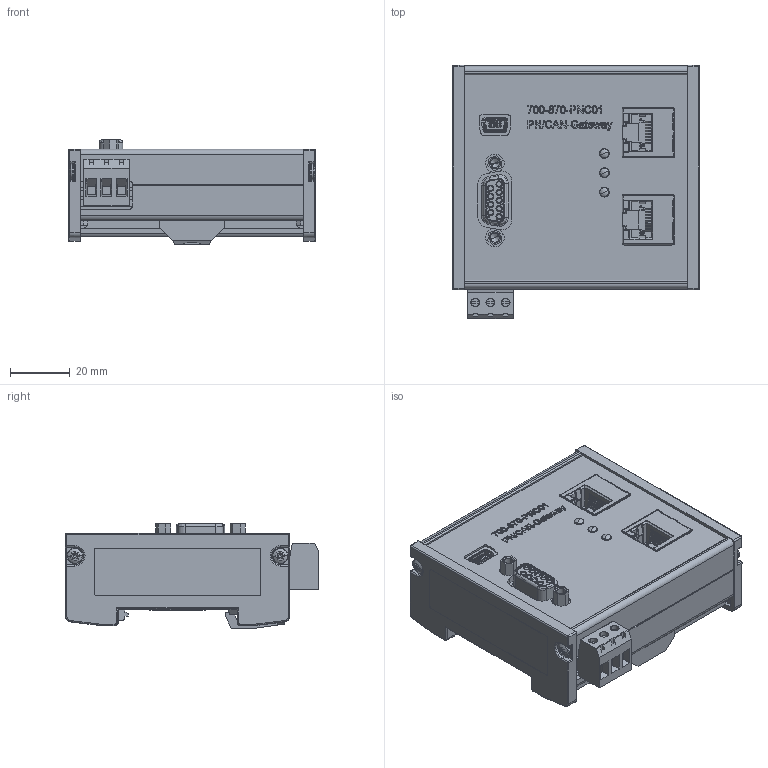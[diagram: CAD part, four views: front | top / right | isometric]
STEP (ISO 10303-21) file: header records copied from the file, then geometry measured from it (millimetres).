
FILE_DESCRIPTION (( 'STEP AP214' ), '1' );
FILE_NAME ('700-671-PNC01 V 00-01 STEP for EPLAN macro.STEP', '2018-04-13T14:19:14', ( '' ), ( '' ), 'SwSTEP 2.0', 'SolidWorks 2018', '' );
FILE_SCHEMA (( 'AUTOMOTIVE_DESIGN' ));
Length unit declared in the file: millimetre
Products named in the file (14): F09S2Gy-1569_COLOR; g-alu-001 V01-01; b003-phx-03 V 00-00; g-alu-002 V00-00; ps-alu-177 V00-00; PLP2-xxx V00-00_PLP2-7MM; m-k30x08-bj V 00-00; g-alu-76 V00-00; 5000751517; m-k29x45V 00-00; ArtNr^700-671-PNC01 V 00-01; RJ45; g-mpi-010 V00-00; 700-671-PNC01 V 00-01 STEP for EPLAN macro
Assembly tree (21 placements, depth 2):
  700-671-PNC01 V 00-01 STEP for EPLAN macro
    g-alu-76 V00-00
    ps-alu-177 V00-00
    g-alu-001 V01-01  x2
    m-k29x45V 00-00  x4
    g-alu-002 V00-00
    m-k30x08-bj V 00-00
    PLP2-xxx V00-00_PLP2-7MM  x3
    RJ45  x2
    F09S2Gy-1569_COLOR
    g-mpi-010 V00-00  x2
    5000751517
    ArtNr^700-671-PNC01 V 00-01
    b003-phx-03 V 00-00
Bounding box: 83 x 85.1 x 35.1 mm (x, y, z)
Volume: 53383.6 mm3; surface area: 66882.6 mm2
Topology: 52 solids, 52 shells, 4547 faces, 12296 edges, 7955 vertices
Faces by surface type: plane 2557, bspline 904, cylinder 774, cone 288, sphere 20, torus 4
Entity records: 141883 total; most frequent: CARTESIAN_POINT 56141, ORIENTED_EDGE 18566, DIRECTION 14165, EDGE_CURVE 9283, VERTEX_POINT 6039, VECTOR 5981, LINE 5981, AXIS2_PLACEMENT_3D 4092
